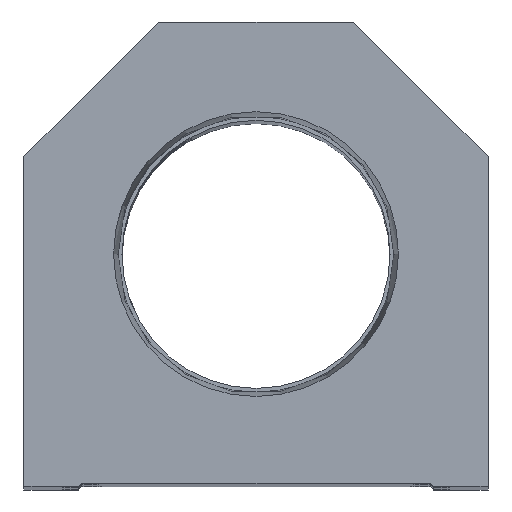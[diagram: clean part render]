
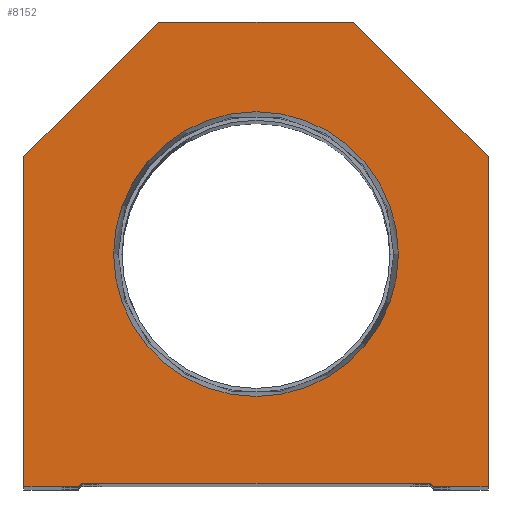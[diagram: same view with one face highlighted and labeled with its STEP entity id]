
A CAD part, top view. The second image highlights one B-rep face of the part: STEP entity #8152.
In plain terms, the highlighted planar face has unit normal (0, 0, 1).
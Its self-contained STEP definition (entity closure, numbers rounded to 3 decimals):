
#29 = CARTESIAN_POINT ( 'NONE',  ( -38.1, 54.1, 0. ) ) ;
#159 = LINE ( 'NONE', #7584, #10874 ) ;
#294 = LINE ( 'NONE', #7901, #7072 ) ;
#748 = VERTEX_POINT ( 'NONE', #8730 ) ;
#1259 = EDGE_LOOP ( 'NONE', ( #18982, #3077 ) ) ;
#1377 = FACE_BOUND ( 'NONE', #1259, .T. ) ;
#1398 = CARTESIAN_POINT ( 'NONE',  ( 28.6, 0., 0. ) ) ;
#1517 = VECTOR ( 'NONE', #12004, 1000. ) ;
#1614 = VECTOR ( 'NONE', #13490, 1000. ) ;
#1699 = VERTEX_POINT ( 'NONE', #9442 ) ;
#1814 = EDGE_CURVE ( 'NONE', #9517, #16358, #15327, .T. ) ;
#1864 = CARTESIAN_POINT ( 'NONE',  ( 0., 38.1, 0. ) ) ;
#2147 = VERTEX_POINT ( 'NONE', #2466 ) ;
#2466 = CARTESIAN_POINT ( 'NONE',  ( -38.1, 54.1, 0. ) ) ;
#3071 = LINE ( 'NONE', #17992, #1614 ) ;
#3077 = ORIENTED_EDGE ( 'NONE', *, *, #11332, .F. ) ;
#3617 = VECTOR ( 'NONE', #4547, 1000. ) ;
#3949 = EDGE_CURVE ( 'NONE', #16358, #9643, #14985, .T. ) ;
#4184 = DIRECTION ( 'NONE',  ( 0., 0., 1. ) ) ;
#4220 = ORIENTED_EDGE ( 'NONE', *, *, #10902, .T. ) ;
#4547 = DIRECTION ( 'NONE',  ( 0.707, -0.707, 0. ) ) ;
#4575 = DIRECTION ( 'NONE',  ( 1., 0., 0. ) ) ;
#4794 = CARTESIAN_POINT ( 'NONE',  ( 38.1, 54.1, 0. ) ) ;
#4877 = ORIENTED_EDGE ( 'NONE', *, *, #9402, .T. ) ;
#5757 = CIRCLE ( 'NONE', #6068, 23.374 ) ;
#5971 = DIRECTION ( 'NONE',  ( 1., 0., 0. ) ) ;
#5986 = VERTEX_POINT ( 'NONE', #6834 ) ;
#6068 = AXIS2_PLACEMENT_3D ( 'NONE', #10086, #10270, #13171 ) ;
#6132 = ORIENTED_EDGE ( 'NONE', *, *, #10861, .T. ) ;
#6134 = DIRECTION ( 'NONE',  ( -1., 0., 0. ) ) ;
#6269 = ORIENTED_EDGE ( 'NONE', *, *, #19055, .T. ) ;
#6373 = DIRECTION ( 'NONE',  ( 0., 1., 0. ) ) ;
#6741 = EDGE_CURVE ( 'NONE', #2147, #1699, #18491, .T. ) ;
#6834 = CARTESIAN_POINT ( 'NONE',  ( 38.1, 0., 0. ) ) ;
#6917 = CARTESIAN_POINT ( 'NONE',  ( 16., 76.2, 0. ) ) ;
#7044 = VERTEX_POINT ( 'NONE', #15175 ) ;
#7072 = VECTOR ( 'NONE', #6373, 1000. ) ;
#7308 = CARTESIAN_POINT ( 'NONE',  ( 28.6, 0.5, 0. ) ) ;
#7474 = VERTEX_POINT ( 'NONE', #7483 ) ;
#7483 = CARTESIAN_POINT ( 'NONE',  ( 29.1, 0., 0. ) ) ;
#7545 = LINE ( 'NONE', #29, #8686 ) ;
#7584 = CARTESIAN_POINT ( 'NONE',  ( 16., 76.2, 0. ) ) ;
#7841 = ORIENTED_EDGE ( 'NONE', *, *, #9188, .T. ) ;
#7901 = CARTESIAN_POINT ( 'NONE',  ( 38.1, 0., 0. ) ) ;
#8086 = AXIS2_PLACEMENT_3D ( 'NONE', #1864, #14293, #17009 ) ;
#8152 = ADVANCED_FACE ( 'NONE', ( #1377, #16817 ), #12207, .T. ) ;
#8414 = VERTEX_POINT ( 'NONE', #12183 ) ;
#8686 = VECTOR ( 'NONE', #19665, 1000. ) ;
#8730 = CARTESIAN_POINT ( 'NONE',  ( 38.1, 54.1, 0. ) ) ;
#8873 = CARTESIAN_POINT ( 'NONE',  ( -28.6, 0.5, 0. ) ) ;
#9108 = DIRECTION ( 'NONE',  ( 0.707, 0.707, 0. ) ) ;
#9188 = EDGE_CURVE ( 'NONE', #1699, #9517, #3071, .T. ) ;
#9300 = EDGE_CURVE ( 'NONE', #18574, #7044, #5757, .T. ) ;
#9402 = EDGE_CURVE ( 'NONE', #8414, #2147, #7545, .T. ) ;
#9442 = CARTESIAN_POINT ( 'NONE',  ( -38.1, 0., 0. ) ) ;
#9517 = VERTEX_POINT ( 'NONE', #19059 ) ;
#9643 = VERTEX_POINT ( 'NONE', #7308 ) ;
#10086 = CARTESIAN_POINT ( 'NONE',  ( 0., 38.1, 0. ) ) ;
#10270 = DIRECTION ( 'NONE',  ( 0., 0., 1. ) ) ;
#10450 = CARTESIAN_POINT ( 'NONE',  ( -28.6, 0.5, 0. ) ) ;
#10570 = CARTESIAN_POINT ( 'NONE',  ( 14.55, 14.55, 0. ) ) ;
#10624 = LINE ( 'NONE', #1398, #19239 ) ;
#10690 = VECTOR ( 'NONE', #14796, 1000. ) ;
#10713 = CARTESIAN_POINT ( 'NONE',  ( -14.55, 14.55, 0. ) ) ;
#10761 = EDGE_CURVE ( 'NONE', #7474, #5986, #10624, .T. ) ;
#10861 = EDGE_CURVE ( 'NONE', #5986, #748, #294, .T. ) ;
#10874 = VECTOR ( 'NONE', #6134, 1000. ) ;
#10902 = EDGE_CURVE ( 'NONE', #748, #15043, #18924, .T. ) ;
#11112 = DIRECTION ( 'NONE',  ( -0.707, 0.707, 0. ) ) ;
#11332 = EDGE_CURVE ( 'NONE', #7044, #18574, #19597, .T. ) ;
#11705 = EDGE_CURVE ( 'NONE', #9643, #7474, #11976, .T. ) ;
#11866 = CARTESIAN_POINT ( 'NONE',  ( 23.374, 38.1, 0. ) ) ;
#11976 = LINE ( 'NONE', #10570, #3617 ) ;
#12004 = DIRECTION ( 'NONE',  ( 0., -1., 0. ) ) ;
#12183 = CARTESIAN_POINT ( 'NONE',  ( -16., 76.2, 0. ) ) ;
#12207 = PLANE ( 'NONE',  #15357 ) ;
#12535 = ORIENTED_EDGE ( 'NONE', *, *, #10761, .T. ) ;
#12657 = ORIENTED_EDGE ( 'NONE', *, *, #6741, .T. ) ;
#13171 = DIRECTION ( 'NONE',  ( 1., 0., 0. ) ) ;
#13490 = DIRECTION ( 'NONE',  ( 1., 0., 0. ) ) ;
#13601 = CARTESIAN_POINT ( 'NONE',  ( -38.1, 0., 0. ) ) ;
#14158 = ORIENTED_EDGE ( 'NONE', *, *, #3949, .T. ) ;
#14240 = ORIENTED_EDGE ( 'NONE', *, *, #11705, .T. ) ;
#14293 = DIRECTION ( 'NONE',  ( 0., 0., 1. ) ) ;
#14796 = DIRECTION ( 'NONE',  ( 1., 0., 0. ) ) ;
#14985 = LINE ( 'NONE', #8873, #10690 ) ;
#15043 = VERTEX_POINT ( 'NONE', #6917 ) ;
#15175 = CARTESIAN_POINT ( 'NONE',  ( -23.374, 38.1, 0. ) ) ;
#15327 = LINE ( 'NONE', #10713, #18360 ) ;
#15357 = AXIS2_PLACEMENT_3D ( 'NONE', #18307, #4184, #4575 ) ;
#15550 = EDGE_LOOP ( 'NONE', ( #7841, #16971, #14158, #14240, #12535, #6132, #4220, #6269, #4877, #12657 ) ) ;
#16358 = VERTEX_POINT ( 'NONE', #10450 ) ;
#16817 = FACE_OUTER_BOUND ( 'NONE', #15550, .T. ) ;
#16971 = ORIENTED_EDGE ( 'NONE', *, *, #1814, .T. ) ;
#17009 = DIRECTION ( 'NONE',  ( 1., 0., 0. ) ) ;
#17992 = CARTESIAN_POINT ( 'NONE',  ( -28.6, 0., 0. ) ) ;
#18307 = CARTESIAN_POINT ( 'NONE',  ( 0., 0., 0. ) ) ;
#18360 = VECTOR ( 'NONE', #9108, 1000. ) ;
#18491 = LINE ( 'NONE', #13601, #1517 ) ;
#18574 = VERTEX_POINT ( 'NONE', #11866 ) ;
#18924 = LINE ( 'NONE', #4794, #19250 ) ;
#18982 = ORIENTED_EDGE ( 'NONE', *, *, #9300, .F. ) ;
#19055 = EDGE_CURVE ( 'NONE', #15043, #8414, #159, .T. ) ;
#19059 = CARTESIAN_POINT ( 'NONE',  ( -29.1, 0., 0. ) ) ;
#19239 = VECTOR ( 'NONE', #5971, 1000. ) ;
#19250 = VECTOR ( 'NONE', #11112, 1000. ) ;
#19597 = CIRCLE ( 'NONE', #8086, 23.374 ) ;
#19665 = DIRECTION ( 'NONE',  ( -0.707, -0.707, 0. ) ) ;
